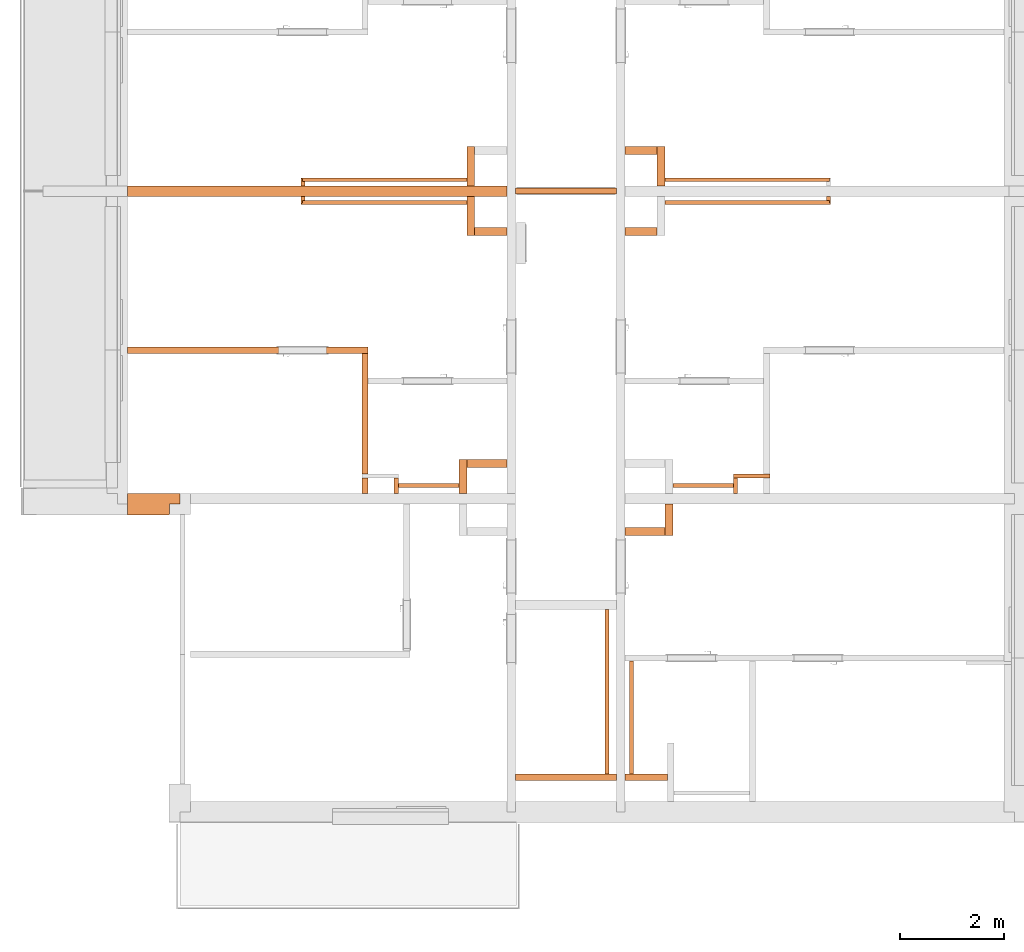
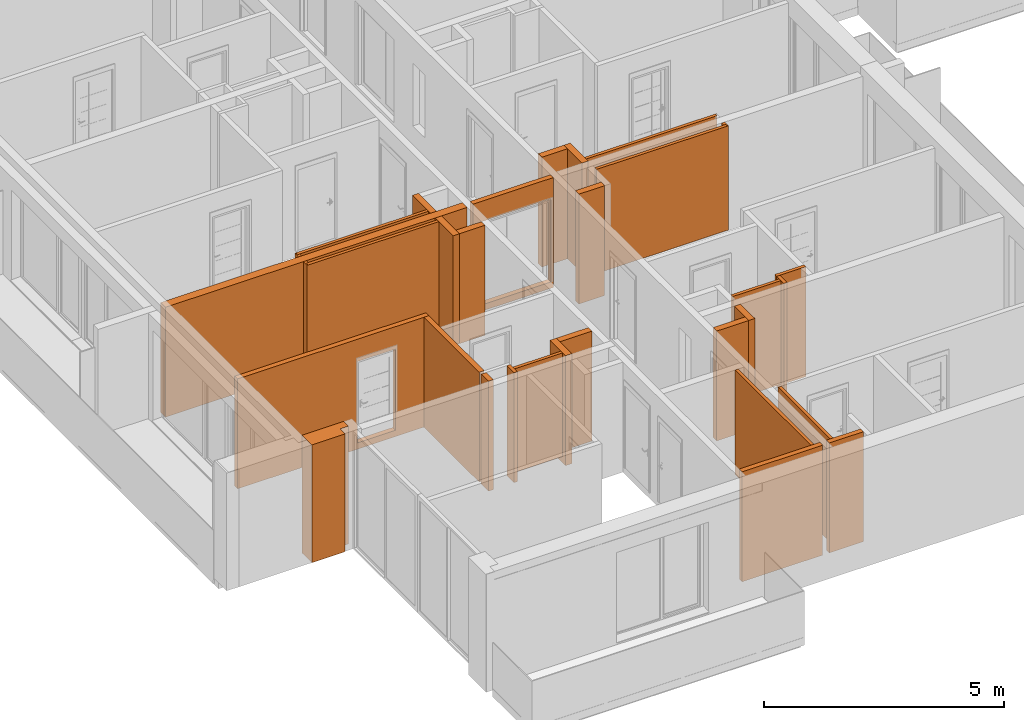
# One storey, part 51 of 64: 31 proxies, 2 openings.
"""IFC2X3 building model written with IfcOpenShell, lengths in millimetres."""

from ifc_helpers import new_model, entity, si_unit, converted_unit, derived_unit, money_unit, direction, frame, origin_with_axes, origin_2d_with_axis, place, context, subcontext, project, spatial, rectangle, extrude, faceted_brep, material, material_list, type_object, element, save


model = new_model("IFC2X3")

# Units and contexts
model_context = context("Model", 3, precision=0.01, world=origin_with_axes(), true_north=direction((0.34421633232, 0.938890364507)))
body_context = subcontext(model_context, "Body", "Model", "MODEL_VIEW")
ifc_project = project(units=[si_unit("LENGTHUNIT", "METRE", prefix="MILLI"), si_unit("AREAUNIT", "SQUARE_METRE"), si_unit("VOLUMEUNIT", "CUBIC_METRE"), converted_unit("PLANEANGLEUNIT", "DEGREE", entity("IfcPlaneAngleMeasure", 0.0174532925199), si_unit("PLANEANGLEUNIT", "RADIAN"), dimensions=[0, 0, 0, 0, 0, 0, 0]), si_unit("SOLIDANGLEUNIT", "STERADIAN"), money_unit("USD"), converted_unit("TIMEUNIT", "Year", entity("IfcTimeMeasure", 31556926.0), si_unit("TIMEUNIT", "SECOND"), dimensions=[0, 0, 1, 0, 0, 0, 0]), si_unit("MASSUNIT", "GRAM", prefix="KILO"), si_unit("THERMODYNAMICTEMPERATUREUNIT", "DEGREE_CELSIUS"), si_unit("LUMINOUSINTENSITYUNIT", "LUMEN"), si_unit("ENERGYUNIT", "JOULE", prefix="MEGA"), derived_unit("THERMALCONDUCTANCEUNIT", [(si_unit("POWERUNIT", "WATT"), 1), (si_unit("LENGTHUNIT", "METRE"), -1), (si_unit("THERMODYNAMICTEMPERATUREUNIT", "KELVIN"), -1)]), derived_unit("SPECIFICHEATCAPACITYUNIT", [(si_unit("ENERGYUNIT", "JOULE"), 1), (si_unit("MASSUNIT", "GRAM", prefix="KILO"), -1), (si_unit("THERMODYNAMICTEMPERATUREUNIT", "KELVIN"), -1)]), derived_unit("MASSDENSITYUNIT", [(si_unit("MASSUNIT", "GRAM", prefix="KILO"), 1), (si_unit("VOLUMEUNIT", "CUBIC_METRE"), -1)])], contexts=[model_context])

# Site, building, storey
site_placement = place(None, origin_with_axes())
site = spatial("IfcSite", under=ifc_project, at=site_placement, Name="USTRONIE MORSKIE", CompositionType="ELEMENT")
building_placement = place(site_placement, origin_with_axes())
building = spatial("IfcBuilding", under=site, at=building_placement, Name="Budynek", CompositionType="ELEMENT")
storey_placement = place(building_placement, frame((0.0, 0.0, 7000.0), z_axis=(0.0, 0.0, 1.0), x_axis=(1.0, 0.0, 0.0)))
storey = spatial("IfcBuildingStorey", under=building, at=storey_placement, Name="PIĘTRO 2", CompositionType="ELEMENT", Elevation=7000.0)

# Proxies
ifc_material_1 = material(Name="Bloczki silikatowe")
building_element_proxy_type_1 = type_object("IfcBuildingElementProxyType", Name="Bloczki silikatowe 120", PredefinedType="NOTDEFINED")
proxy_1_placement = place(storey_placement, frame((359617.920919, 709701.199036, -160.0), z_axis=(0.0, 0.0, 1.0), x_axis=(-1.0, 0.0, 0.0)))
element("IfcBuildingElementProxy", 1, at=proxy_1_placement, inside=storey, type_object=building_element_proxy_type_1, material=ifc_material_1, Name="SW-04", context=body_context, shape_type="Brep", body=[
    faceted_brep([(2020.0, 4.54747350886e-10, 2800.0), (80.0, 3.41060513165e-10, 2800.0), (80.0, -120.0, 2800.0), (2020.0, -120.0, 2800.0), (2020.0, 4.54747350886e-10, 0.0), (80.0, 3.41060513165e-10, 0.0), (80.0, -120.0, 0.0), (2020.0, -120.0, 0.0)], [[[0, 1, 2, 3]], [[4, 5, 1, 0]], [[5, 6, 2, 1]], [[3, 2, 6, 7]], [[7, 4, 0, 3]], [[7, 6, 5, 4]]]),
])
proxy_2_placement = place(storey_placement, frame((359617.920919, 709701.199036, -160.0), z_axis=(0.0, 0.0, 1.0), x_axis=(1.0, 0.0, 0.0)))
element("IfcBuildingElementProxy", 2, at=proxy_2_placement, inside=storey, type_object=building_element_proxy_type_1, material=ifc_material_1, Name="SW-04", context=body_context, shape_type="Brep", body=[
    faceted_brep([(900.0, 120.0, 0.0), (900.0, 0.0, 0.0), (80.0, 0.0, 0.0), (80.0, 120.0, 0.0), (900.0, 120.0, 2800.0), (900.0, 0.0, 2800.0), (80.0, 0.0, 2800.0), (80.0, 120.0, 2800.0)], [[[0, 1, 2, 3]], [[1, 0, 4, 5]], [[1, 5, 6, 2]], [[7, 3, 2, 6]], [[4, 0, 3, 7]], [[5, 4, 7, 6]]]),
])
proxy_3_placement = place(storey_placement, frame((354717.920919, 715101.199036, -160.0), z_axis=(0.0, 0.0, 1.0), x_axis=(0.0, 1.0, 0.0)))
element("IfcBuildingElementProxy", 3, at=proxy_3_placement, inside=storey, type_object=building_element_proxy_type_1, material=ifc_material_1, Name="SW-04", context=body_context, shape_type="Brep", body=[
    faceted_brep([(2790.01935038, 60.0, 0.0), (2790.01935038, -60.0, 0.0), (480.01915523, -60.0, 0.0), (480.01915523, 60.0, 0.0), (2790.01935038, 60.0, 2800.0), (2790.01935038, -60.0, 2800.0), (480.01915523, -60.0, 2800.0), (480.01915523, 60.0, 2800.0)], [[[0, 1, 2, 3]], [[1, 0, 4, 5]], [[1, 5, 6, 2]], [[7, 3, 2, 6]], [[4, 0, 3, 7]], [[5, 4, 7, 6]]]),
    faceted_brep([(400.01915523, 60.0, 0.0), (400.01915523, -60.0, 0.0), (100.0, -60.0, 0.0), (100.0, 60.0, 0.0), (400.01915523, 60.0, 2800.0), (400.01915523, -60.0, 2800.0), (100.0, -60.0, 2800.0), (100.0, 60.0, 2800.0)], [[[0, 1, 2, 3]], [[1, 0, 4, 5]], [[1, 5, 6, 2]], [[7, 3, 2, 6]], [[4, 0, 3, 7]], [[5, 4, 7, 6]]]),
])

# Proxy, opening
proxy_4_placement = place(storey_placement, frame((354717.920919, 717951.218387, -160.0), z_axis=(0.0, 0.0, 1.0), x_axis=(-1.0, 0.0, 0.0)))
proxy_4 = element("IfcBuildingElementProxy", 4, at=proxy_4_placement, inside=storey, type_object=building_element_proxy_type_1, material=ifc_material_1, Name="SW-04", context=body_context, shape_type="Brep", body=[
    faceted_brep([(4550.0, -59.9999999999, 2800.0), (4550.0, 59.9999999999, 2800.0), (-60.0, 59.9999999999, 2800.0), (-60.0, -59.9999999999, 2800.0), (4550.0, -59.9999999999, 0.0), (4550.0, 59.9999999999, 0.0), (-60.0, 59.9999999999, 0.0), (-60.0, -59.9999999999, 0.0)], [[[0, 1, 2, 3]], [[1, 0, 4, 5]], [[1, 5, 6, 2]], [[7, 3, 2, 6]], [[4, 0, 3, 7]], [[5, 4, 7, 6]]]),
])
opening_1_placement = place(proxy_4_placement, frame((1200.0, 0.0, 160.0), z_axis=(0.0, 0.0, 1.0), x_axis=(1.0, 0.0, 0.0)))
element("IfcOpeningElement", 5, at=opening_1_placement, cuts=proxy_4, Name="Dw.3", context=body_context, shape_type="SweptSolid", body=[
    extrude(rectangle(XDim=920.0, YDim=2070.0, at=origin_2d_with_axis()), frame((0.0, 120.0, 1035.0), z_axis=(0.0, 1.0, 0.0), x_axis=(-1.0, 0.0, 0.0)), (0.0, 0.0, -1.0), 360.0),
    extrude(rectangle(XDim=994.0, YDim=2177.0, at=origin_2d_with_axis()), frame((0.0, 60.0000000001, 1088.5), z_axis=(0.0, 1.0, 0.0), x_axis=(-1.0, 0.0, 0.0)), (0.0, 0.0, 1.0), 120.0),
    extrude(rectangle(XDim=994.0, YDim=2177.0, at=origin_2d_with_axis()), frame((0.0, -59.9999999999, 1088.5), z_axis=(0.0, -1.0, 0.0), x_axis=(-1.0, 0.0, 0.0)), (0.0, 0.0, 1.0), 120.0),
])

proxy_5_placement = place(storey_placement, frame((359617.920919, 721001.199036, -160.0), z_axis=(0.0, 0.0, 1.0), x_axis=(-1.0, 0.0, 0.0)))
proxy_5 = element("IfcBuildingElementProxy", 6, at=proxy_5_placement, inside=storey, type_object=building_element_proxy_type_1, material=ifc_material_1, Name="SW-04", context=body_context, shape_type="Brep", body=[
    faceted_brep([(2020.0, 59.9999999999, 2800.0), (80.0, 59.9999999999, 2800.0), (80.0, -59.9999999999, 2800.0), (2020.0, -59.9999999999, 2800.0), (2020.0, 59.9999999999, 0.0), (80.0, 59.9999999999, 0.0), (80.0, -59.9999999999, 0.0), (2020.0, -59.9999999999, 0.0)], [[[0, 1, 2, 3]], [[4, 5, 1, 0]], [[5, 6, 2, 1]], [[3, 2, 6, 7]], [[7, 4, 0, 3]], [[7, 6, 5, 4]]]),
])
opening_2_placement = place(proxy_5_placement, frame((1050.0, 0.0, 160.0), z_axis=(0.0, 0.0, 1.0), x_axis=(1.0, 0.0, 0.0)))
element("IfcOpeningElement", 7, at=opening_2_placement, cuts=proxy_5, Name="Dw.5s", context=body_context, shape_type="SweptSolid", body=[
    extrude(rectangle(XDim=1820.0, YDim=2120.0, at=origin_2d_with_axis()), frame((0.0, 120.0, 1060.0), z_axis=(0.0, 1.0, 0.0), x_axis=(1.0, 0.0, 0.0)), (0.0, 0.0, -1.0), 360.0),
    extrude(rectangle(XDim=1894.0, YDim=2157.0, at=origin_2d_with_axis()), frame((0.0, 60.0000000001, 1078.5), z_axis=(0.0, 1.0, 0.0), x_axis=(1.0, 0.0, 0.0)), (0.0, 0.0, 1.0), 120.0),
    extrude(rectangle(XDim=1894.0, YDim=2157.0, at=origin_2d_with_axis()), frame((0.0, -59.9999999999, 1078.5), z_axis=(0.0, -1.0, 0.0), x_axis=(1.0, 0.0, 0.0)), (0.0, 0.0, 1.0), 120.0),
])

# Proxies
ifc_material_2 = material(Name="Tynk zewnętrzny")
ifc_material_3 = material(Name="Wełna ELEW")
ifc_material_4 = material(Name="Beton konstrukcyjny B25")
ifc_material_list_1 = material_list([ifc_material_2, ifc_material_3, ifc_material_4])
building_element_proxy_type_2 = type_object("IfcBuildingElementProxyType", Name="20+20 410", PredefinedType="NOTDEFINED")
proxy_6_placement = place(storey_placement, frame((351267.920919, 715101.199036, -160.0), z_axis=(0.0, 0.0, 1.0), x_axis=(-1.0, 0.0, 0.0)))
element("IfcBuildingElementProxy", 8, at=proxy_6_placement, inside=storey, type_object=building_element_proxy_type_2, material=ifc_material_list_1, Name="SZ-01", context=body_context, shape_type="Brep", body=[
    faceted_brep([(310.0, 310.0, 2800.0), (310.0, 300.0, 2800.0), (310.0, 300.0, 3000.0), (310.0, 310.0, 3000.0), (310.0, 300.0, 0.0), (310.0, 310.0, 0.0), (1100.0, 300.0, 0.0), (1100.0, 300.0, 3000.0), (1100.0, 310.0, 3000.0), (1100.0, 310.0, 0.0)], [[[0, 1, 2, 3]], [[4, 1, 0, 5]], [[1, 4, 6, 7, 2]], [[3, 2, 7, 8]], [[5, 0, 3, 8, 9]], [[4, 5, 9, 6]], [[8, 7, 6, 9]]]),
    faceted_brep([(300.0, 300.0, 2800.0), (300.0, 100.0, 2800.0), (300.0, 100.0, 3000.0), (300.0, 300.0, 3000.0), (300.0, 100.0, 0.0), (300.0, 300.0, 0.0), (1100.0, 100.0, 0.0), (1100.0, 100.0, 3000.0), (1100.0, 300.0, 3000.0), (1100.0, 300.0, 0.0)], [[[0, 1, 2, 3]], [[4, 1, 0, 5]], [[1, 4, 6, 7, 2]], [[3, 2, 7, 8]], [[5, 0, 3, 8, 9]], [[4, 5, 9, 6]], [[8, 7, 6, 9]]]),
    faceted_brep([(100.0, 100.0, 2800.0), (100.0, -100.0, 2800.0), (100.0, -100.0, 3000.0), (100.0, 100.0, 3000.0), (100.0, -100.0, 0.0), (100.0, 100.0, 0.0), (1100.0, -99.9999999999, 0.0), (1100.0, -99.9999999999, 3000.0), (1100.0, 100.0, 3000.0), (1100.0, 100.0, 0.0)], [[[0, 1, 2, 3]], [[4, 1, 0, 5]], [[1, 4, 6, 7, 2]], [[3, 2, 7, 8]], [[5, 0, 3, 8, 9]], [[4, 5, 9, 6]], [[8, 7, 6, 9]]]),
])
ifc_material_5 = material(Name="-Pustka powietrzna")
ifc_material_6 = material(Name="Płyta GK")
ifc_material_list_2 = material_list([ifc_material_5, ifc_material_6, ifc_material_6])
building_element_proxy_type_3 = type_object("IfcBuildingElementProxyType", Name="330-SD GK 2-warstwy 75", PredefinedType="NOTDEFINED")
proxy_7_placement = place(storey_placement, frame((359372.920919, 713071.199036, -160.0), z_axis=(0.0, 0.0, 1.0), x_axis=(0.0, -1.0, 0.0)))
element("IfcBuildingElementProxy", 9, at=proxy_7_placement, inside=storey, type_object=building_element_proxy_type_3, material=ifc_material_list_2, Name="Ściana-009", context=body_context, shape_type="Brep", body=[
    faceted_brep([(3249.99999956, 25.0, 160.0), (90.0, 25.0, 160.0), (90.0, 25.0, 2800.0), (3249.99999956, 25.0, 2800.0), (90.0, -25.0, 160.0), (3249.99999956, -25.0, 160.0), (90.0, -25.0, 2800.0), (3249.99999956, -25.0, 2800.0)], [[[0, 1, 2, 3]], [[4, 1, 0, 5]], [[1, 4, 6, 2]], [[7, 3, 2, 6]], [[5, 0, 3, 7]], [[4, 5, 7, 6]]]),
    faceted_brep([(3249.99999956, -25.0, 145.0), (90.0, -25.0, 145.0), (90.0, -25.0, 2800.0), (3249.99999956, -25.0, 2800.0), (90.0, -37.5, 145.0), (3249.99999956, -37.5, 145.0), (90.0, -37.5, 2800.0), (3249.99999956, -37.5, 2800.0)], [[[0, 1, 2, 3]], [[4, 1, 0, 5]], [[1, 4, 6, 2]], [[7, 3, 2, 6]], [[5, 0, 3, 7]], [[4, 5, 7, 6]]]),
    faceted_brep([(3249.99999956, -37.5, 145.0), (90.0, -37.5, 145.0), (90.0, -37.5, 2800.0), (3249.99999956, -37.5, 2800.0), (90.0, -50.0, 145.0), (3249.99999956, -50.0, 145.0), (90.0, -50.0, 2800.0), (3249.99999956, -50.0, 2800.0)], [[[0, 1, 2, 3]], [[4, 1, 0, 5]], [[1, 4, 6, 2]], [[7, 3, 2, 6]], [[5, 0, 3, 7]], [[4, 5, 7, 6]]]),
])
ifc_material_list_3 = material_list([ifc_material_6, ifc_material_6, ifc_material_5])
proxy_8_placement = place(storey_placement, frame((360542.92182, 715371.197725, -180.0), z_axis=(0.0, 0.0, 1.0), x_axis=(1.0, 0.0, 0.0)))
element("IfcBuildingElementProxy", 10, at=proxy_8_placement, inside=storey, type_object=building_element_proxy_type_3, material=ifc_material_list_3, Name="Ściana-009", context=body_context, shape_type="Brep", body=[
    faceted_brep([(1234.99909883, 12.5, 165.0), (1234.99909883, 25.0, 165.0), (1234.99909883, 25.0, 2820.0), (1234.99909883, 12.5, 2820.0), (75.0, 25.0, 165.0), (75.0, 12.5, 165.0), (75.0, 25.0, 2820.0), (75.0, 12.5, 2820.0)], [[[0, 1, 2, 3]], [[4, 1, 0, 5]], [[1, 4, 6, 2]], [[7, 3, 2, 6]], [[5, 0, 3, 7]], [[4, 5, 7, 6]]]),
    faceted_brep([(1234.99909883, 0.0, 165.0), (1234.99909883, 12.5, 165.0), (1234.99909883, 12.5, 2820.0), (1234.99909883, 0.0, 2820.0), (75.0, 12.5, 165.0), (75.0, 0.0, 165.0), (75.0, 12.5, 2820.0), (75.0, 0.0, 2820.0)], [[[0, 1, 2, 3]], [[4, 1, 0, 5]], [[1, 4, 6, 2]], [[7, 3, 2, 6]], [[5, 0, 3, 7]], [[4, 5, 7, 6]]]),
    faceted_brep([(1234.99909883, -50.0, 180.0), (1234.99909883, 0.0, 180.0), (1234.99909883, 0.0, 2820.0), (1234.99909883, -50.0, 2820.0), (75.0, 0.0, 180.0), (75.0, -50.0, 180.0), (75.0, 0.0, 2820.0), (75.0, -50.0, 2820.0)], [[[0, 1, 2, 3]], [[4, 1, 0, 5]], [[1, 4, 6, 2]], [[7, 3, 2, 6]], [[5, 0, 3, 7]], [[4, 5, 7, 6]]]),
])
proxy_9_placement = place(storey_placement, frame((360317.920919, 721231.199036, -180.0), z_axis=(0.0, 0.0, 1.0), x_axis=(1.0, 0.0, 0.0)))
element("IfcBuildingElementProxy", 11, at=proxy_9_placement, inside=storey, type_object=building_element_proxy_type_3, material=ifc_material_list_3, Name="Ściana-009", context=body_context, shape_type="Brep", body=[
    faceted_brep([(3325.0, 12.5, 165.0), (3325.0, 25.0, 165.0), (3325.0, 25.0, 2820.0), (3325.0, 12.5, 2820.0), (150.0, 25.0, 165.0), (150.0, 12.5, 165.0), (150.0, 25.0, 2820.0), (150.0, 12.5, 2820.0)], [[[0, 1, 2, 3]], [[4, 1, 0, 5]], [[1, 4, 6, 2]], [[2, 6, 7, 3]], [[5, 0, 3, 7]], [[4, 5, 7, 6]]]),
    faceted_brep([(3312.5, 0.0, 165.0), (3312.5, 12.5, 165.0), (3312.5, 12.5, 2820.0), (3312.5, 0.0, 2820.0), (150.0, 12.5, 165.0), (150.0, 0.0, 165.0), (150.0, 12.5, 2820.0), (150.0, 0.0, 2820.0)], [[[0, 1, 2, 3]], [[4, 1, 0, 5]], [[1, 4, 6, 2]], [[2, 6, 7, 3]], [[5, 0, 3, 7]], [[4, 5, 7, 6]]]),
    faceted_brep([(3300.0, -50.0, 180.0), (3300.0, 0.0, 180.0), (3300.0, 0.0, 2820.0), (3300.0, -50.0, 2820.0), (150.0, 0.0, 180.0), (150.0, -50.0, 180.0), (150.0, 0.0, 2820.0), (150.0, -50.0, 2820.0)], [[[0, 1, 2, 3]], [[4, 1, 0, 5]], [[1, 4, 6, 2]], [[2, 6, 7, 3]], [[5, 0, 3, 7]], [[4, 5, 7, 6]]]),
])
proxy_10_placement = place(storey_placement, frame((356817.920919, 720771.199036, -180.0), z_axis=(0.0, 0.0, 1.0), x_axis=(-1.0, 0.0, 0.0)))
element("IfcBuildingElementProxy", 12, at=proxy_10_placement, inside=storey, type_object=building_element_proxy_type_3, material=ifc_material_list_3, Name="Ściana-009", context=body_context, shape_type="Brep", body=[
    faceted_brep([(150.0, 25.0, 165.0), (150.0, 12.5, 165.0), (150.0, 12.5, 2820.0), (150.0, 25.0, 2820.0), (3325.0, 12.5, 165.0), (3325.0, 25.0, 165.0), (3325.0, 12.5, 2820.0), (3325.0, 25.0, 2820.0)], [[[0, 1, 2, 3]], [[4, 1, 0, 5]], [[1, 4, 6, 2]], [[7, 3, 2, 6]], [[5, 0, 3, 7]], [[4, 5, 7, 6]]]),
    faceted_brep([(150.0, 12.5, 165.0), (150.0, 0.0, 165.0), (150.0, 0.0, 2820.0), (150.0, 12.5, 2820.0), (3312.5, 0.0, 165.0), (3312.5, 12.5, 165.0), (3312.5, 0.0, 2820.0), (3312.5, 12.5, 2820.0)], [[[0, 1, 2, 3]], [[4, 1, 0, 5]], [[1, 4, 6, 2]], [[7, 3, 2, 6]], [[5, 0, 3, 7]], [[4, 5, 7, 6]]]),
    faceted_brep([(150.0, 0.0, 180.0), (150.0, -50.0, 180.0), (150.0, -50.0, 2820.0), (150.0, 0.0, 2820.0), (3300.0, -50.0, 180.0), (3300.0, 0.0, 180.0), (3300.0, -50.0, 2820.0), (3300.0, 0.0, 2820.0)], [[[0, 1, 2, 3]], [[4, 1, 0, 5]], [[1, 4, 6, 2]], [[7, 3, 2, 6]], [[5, 0, 3, 7]], [[4, 5, 7, 6]]]),
])
proxy_11_placement = place(storey_placement, frame((363617.920919, 721001.199036, -180.0), z_axis=(0.0, 0.0, 1.0), x_axis=(0.0, -1.0, 0.0)))
element("IfcBuildingElementProxy", 13, at=proxy_11_placement, inside=storey, type_object=building_element_proxy_type_3, material=ifc_material_list_3, Name="Ściana-009", context=body_context, shape_type="Brep", body=[
    faceted_brep([(242.5, 25.0, 165.0), (100.0, 25.0, 165.0), (100.0, 25.0, 2820.0), (242.5, 25.0, 2820.0), (100.0, 12.5, 165.0), (242.5, 12.5, 165.0), (100.0, 12.5, 2820.0), (242.5, 12.5, 2820.0)], [[[0, 1, 2, 3]], [[4, 1, 0, 5]], [[1, 4, 6, 2]], [[3, 2, 6, 7]], [[5, 0, 3, 7]], [[4, 5, 7, 6]]]),
    faceted_brep([(230.0, 12.5, 165.0), (100.0, 12.5, 165.0), (100.0, 12.5, 2820.0), (230.0, 12.5, 2820.0), (100.0, 0.0, 165.0), (230.0, 0.0, 165.0), (100.0, 0.0, 2820.0), (230.0, 0.0, 2820.0)], [[[0, 1, 2, 3]], [[4, 1, 0, 5]], [[1, 4, 6, 2]], [[3, 2, 6, 7]], [[5, 0, 3, 7]], [[4, 5, 7, 6]]]),
    faceted_brep([(180.0, 0.0, 180.0), (100.0, 0.0, 180.0), (100.0, 0.0, 2820.0), (180.0, 0.0, 2820.0), (100.0, -50.0, 180.0), (180.0, -50.0, 180.0), (100.0, -50.0, 2820.0), (180.0, -50.0, 2820.0)], [[[0, 1, 2, 3]], [[4, 1, 0, 5]], [[1, 4, 6, 2]], [[3, 2, 6, 7]], [[5, 0, 3, 7]], [[4, 5, 7, 6]]]),
])
proxy_12_placement = place(storey_placement, frame((360317.920919, 720771.199036, -180.0), z_axis=(0.0, 0.0, 1.0), x_axis=(1.0, 0.0, 0.0)))
element("IfcBuildingElementProxy", 14, at=proxy_12_placement, inside=storey, type_object=building_element_proxy_type_3, material=ifc_material_list_2, Name="Ściana-009", context=body_context, shape_type="Brep", body=[
    faceted_brep([(3300.0, 0.0, 180.0), (3300.0, 50.0, 180.0), (3300.0, 50.0, 2820.0), (3300.0, 0.0, 2820.0), (150.0, 50.0, 180.0), (150.0, 0.0, 180.0), (150.0, 50.0, 2820.0), (150.0, 0.0, 2820.0)], [[[0, 1, 2, 3]], [[4, 1, 0, 5]], [[1, 4, 6, 2]], [[2, 6, 7, 3]], [[5, 0, 3, 7]], [[4, 5, 7, 6]]]),
    faceted_brep([(3312.5, -12.5, 165.0), (3312.5, 0.0, 165.0), (3312.5, 0.0, 2820.0), (3312.5, -12.5, 2820.0), (150.0, 0.0, 165.0), (150.0, -12.5, 165.0), (150.0, 0.0, 2820.0), (150.0, -12.5, 2820.0)], [[[0, 1, 2, 3]], [[4, 1, 0, 5]], [[1, 4, 6, 2]], [[2, 6, 7, 3]], [[5, 0, 3, 7]], [[4, 5, 7, 6]]]),
    faceted_brep([(3325.0, -25.0, 165.0), (3325.0, -12.5, 165.0), (3325.0, -12.5, 2820.0), (3325.0, -25.0, 2820.0), (150.0, -12.5, 165.0), (150.0, -25.0, 165.0), (150.0, -12.5, 2820.0), (150.0, -25.0, 2820.0)], [[[0, 1, 2, 3]], [[4, 1, 0, 5]], [[1, 4, 6, 2]], [[2, 6, 7, 3]], [[5, 0, 3, 7]], [[4, 5, 7, 6]]]),
])
proxy_13_placement = place(storey_placement, frame((353517.920919, 721001.199036, -180.0), z_axis=(0.0, 0.0, 1.0), x_axis=(0.0, -1.0, 0.0)))
element("IfcBuildingElementProxy", 15, at=proxy_13_placement, inside=storey, type_object=building_element_proxy_type_3, material=ifc_material_list_2, Name="Ściana-009", context=body_context, shape_type="Brep", body=[
    faceted_brep([(180.0, 50.0, 180.0), (100.0, 50.0, 180.0), (100.0, 50.0, 2820.0), (180.0, 50.0, 2820.0), (100.0, 0.0, 180.0), (180.0, 0.0, 180.0), (100.0, 0.0, 2820.0), (180.0, 0.0, 2820.0)], [[[0, 1, 2, 3]], [[4, 1, 0, 5]], [[1, 4, 6, 2]], [[3, 2, 6, 7]], [[5, 0, 3, 7]], [[4, 5, 7, 6]]]),
    faceted_brep([(230.0, 0.0, 165.0), (100.0, 0.0, 165.0), (100.0, 0.0, 2820.0), (230.0, 0.0, 2820.0), (100.0, -12.5, 165.0), (230.0, -12.5, 165.0), (100.0, -12.5, 2820.0), (230.0, -12.5, 2820.0)], [[[0, 1, 2, 3]], [[4, 1, 0, 5]], [[1, 4, 6, 2]], [[3, 2, 6, 7]], [[5, 0, 3, 7]], [[4, 5, 7, 6]]]),
    faceted_brep([(242.5, -12.5, 165.0), (100.0, -12.5, 165.0), (100.0, -12.5, 2820.0), (242.5, -12.5, 2820.0), (100.0, -25.0, 165.0), (242.5, -25.0, 165.0), (100.0, -25.0, 2820.0), (242.5, -25.0, 2820.0)], [[[0, 1, 2, 3]], [[4, 1, 0, 5]], [[1, 4, 6, 2]], [[3, 2, 6, 7]], [[5, 0, 3, 7]], [[4, 5, 7, 6]]]),
])
proxy_14_placement = place(storey_placement, frame((353517.920919, 721001.199036, -180.0), z_axis=(0.0, 0.0, 1.0), x_axis=(0.0, 1.0, 0.0)))
element("IfcBuildingElementProxy", 16, at=proxy_14_placement, inside=storey, type_object=building_element_proxy_type_3, material=ifc_material_list_3, Name="Ściana-009", context=body_context, shape_type="Brep", body=[
    faceted_brep([(100.0, 12.5, 165.0), (242.5, 12.5, 165.0), (242.5, 12.5, 2820.0), (100.0, 12.5, 2820.0), (242.5, 25.0, 165.0), (100.0, 25.0, 165.0), (242.5, 25.0, 2820.0), (100.0, 25.0, 2820.0)], [[[0, 1, 2, 3]], [[4, 1, 0, 5]], [[1, 4, 6, 2]], [[6, 7, 3, 2]], [[5, 0, 3, 7]], [[4, 5, 7, 6]]]),
    faceted_brep([(100.0, 0.0, 165.0), (230.0, 0.0, 165.0), (230.0, 0.0, 2820.0), (100.0, 0.0, 2820.0), (230.0, 12.5, 165.0), (100.0, 12.5, 165.0), (230.0, 12.5, 2820.0), (100.0, 12.5, 2820.0)], [[[0, 1, 2, 3]], [[4, 1, 0, 5]], [[1, 4, 6, 2]], [[6, 7, 3, 2]], [[5, 0, 3, 7]], [[4, 5, 7, 6]]]),
    faceted_brep([(100.0, -50.0, 180.0), (180.0, -50.0, 180.0), (180.0, -50.0, 2820.0), (100.0, -50.0, 2820.0), (180.0, 0.0, 180.0), (100.0, 0.0, 180.0), (180.0, 0.0, 2820.0), (100.0, 0.0, 2820.0)], [[[0, 1, 2, 3]], [[4, 1, 0, 5]], [[1, 4, 6, 2]], [[6, 7, 3, 2]], [[5, 0, 3, 7]], [[4, 5, 7, 6]]]),
])
proxy_15_placement = place(storey_placement, frame((356817.920919, 721231.199036, -180.0), z_axis=(0.0, 0.0, 1.0), x_axis=(-1.0, 0.0, 0.0)))
element("IfcBuildingElementProxy", 17, at=proxy_15_placement, inside=storey, type_object=building_element_proxy_type_3, material=ifc_material_list_2, Name="Ściana-009", context=body_context, shape_type="Brep", body=[
    faceted_brep([(150.0, 50.0, 180.0), (150.0, 0.0, 180.0), (150.0, 0.0, 2820.0), (150.0, 50.0, 2820.0), (3300.0, 0.0, 180.0), (3300.0, 50.0, 180.0), (3300.0, 0.0, 2820.0), (3300.0, 50.0, 2820.0)], [[[0, 1, 2, 3]], [[4, 1, 0, 5]], [[1, 4, 6, 2]], [[7, 3, 2, 6]], [[5, 0, 3, 7]], [[4, 5, 7, 6]]]),
    faceted_brep([(150.0, 0.0, 165.0), (150.0, -12.5, 165.0), (150.0, -12.5, 2820.0), (150.0, 0.0, 2820.0), (3312.5, -12.5, 165.0), (3312.5, 0.0, 165.0), (3312.5, -12.5, 2820.0), (3312.5, 0.0, 2820.0)], [[[0, 1, 2, 3]], [[4, 1, 0, 5]], [[1, 4, 6, 2]], [[7, 3, 2, 6]], [[5, 0, 3, 7]], [[4, 5, 7, 6]]]),
    faceted_brep([(150.0, -12.5, 165.0), (150.0, -25.0, 165.0), (150.0, -25.0, 2820.0), (150.0, -12.5, 2820.0), (3325.0, -25.0, 165.0), (3325.0, -12.5, 165.0), (3325.0, -25.0, 2820.0), (3325.0, -12.5, 2820.0)], [[[0, 1, 2, 3]], [[4, 1, 0, 5]], [[1, 4, 6, 2]], [[7, 3, 2, 6]], [[5, 0, 3, 7]], [[4, 5, 7, 6]]]),
])
proxy_16_placement = place(storey_placement, frame((355317.920919, 715371.200737, -180.0), z_axis=(0.0, 0.0, 1.0), x_axis=(1.0, 0.0, 0.0)))
element("IfcBuildingElementProxy", 18, at=proxy_16_placement, inside=storey, type_object=building_element_proxy_type_3, material=ifc_material_list_3, Name="Ściana-009", context=body_context, shape_type="Brep", body=[
    faceted_brep([(1200.0, 12.5, 165.0), (1200.0, 25.0, 165.0), (1200.0, 25.0, 2820.0), (1200.0, 12.5, 2820.0), (40.0, 25.0, 165.0), (40.0, 12.5, 165.0), (40.0, 25.0, 2820.0), (40.0, 12.5, 2820.0)], [[[0, 1, 2, 3]], [[4, 1, 0, 5]], [[1, 4, 6, 2]], [[2, 6, 7, 3]], [[5, 0, 3, 7]], [[4, 5, 7, 6]]]),
    faceted_brep([(1200.0, 0.0, 165.0), (1200.0, 12.5, 165.0), (1200.0, 12.5, 2820.0), (1200.0, 0.0, 2820.0), (40.0, 12.5, 165.0), (40.0, 0.0, 165.0), (40.0, 12.5, 2820.0), (40.0, 0.0, 2820.0)], [[[0, 1, 2, 3]], [[4, 1, 0, 5]], [[1, 4, 6, 2]], [[2, 6, 7, 3]], [[5, 0, 3, 7]], [[4, 5, 7, 6]]]),
    faceted_brep([(1200.0, -50.0, 180.0), (1200.0, 0.0, 180.0), (1200.0, 0.0, 2820.0), (1200.0, -50.0, 2820.0), (40.0, 0.0, 180.0), (40.0, -50.0, 180.0), (40.0, 0.0, 2820.0), (40.0, -50.0, 2820.0)], [[[0, 1, 2, 3]], [[4, 1, 0, 5]], [[1, 4, 6, 2]], [[2, 6, 7, 3]], [[5, 0, 3, 7]], [[4, 5, 7, 6]]]),
])
proxy_17_placement = place(storey_placement, frame((359812.920919, 712051.218403, -160.0), z_axis=(0.0, 0.0, 1.0), x_axis=(0.0, -1.0, 0.0)))
element("IfcBuildingElementProxy", 19, at=proxy_17_placement, inside=storey, type_object=building_element_proxy_type_3, material=ifc_material_list_3, Name="Ściana-009", context=body_context, shape_type="Brep", body=[
    faceted_brep([(2230.01936646, 50.0, 145.0), (59.9999999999, 50.0, 145.0), (59.9999999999, 50.0, 2800.0), (2230.01936646, 50.0, 2800.0), (59.9999999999, 37.5, 145.0), (2230.01936646, 37.5, 145.0), (59.9999999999, 37.5, 2800.0), (2230.01936646, 37.5, 2800.0)], [[[0, 1, 2, 3]], [[4, 1, 0, 5]], [[1, 4, 6, 2]], [[7, 3, 2, 6]], [[5, 0, 3, 7]], [[4, 5, 7, 6]]]),
    faceted_brep([(2230.01936646, 37.5, 145.0), (59.9999999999, 37.5, 145.0), (59.9999999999, 37.5, 2800.0), (2230.01936646, 37.5, 2800.0), (59.9999999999, 25.0, 145.0), (2230.01936646, 25.0, 145.0), (59.9999999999, 25.0, 2800.0), (2230.01936646, 25.0, 2800.0)], [[[0, 1, 2, 3]], [[4, 1, 0, 5]], [[1, 4, 6, 2]], [[7, 3, 2, 6]], [[5, 0, 3, 7]], [[4, 5, 7, 6]]]),
    faceted_brep([(2230.01936646, 25.0, 160.0), (59.9999999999, 25.0, 160.0), (59.9999999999, 25.0, 2800.0), (2230.01936646, 25.0, 2800.0), (59.9999999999, -25.0, 160.0), (2230.01936646, -25.0, 160.0), (59.9999999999, -25.0, 2800.0), (2230.01936646, -25.0, 2800.0)], [[[0, 1, 2, 3]], [[4, 1, 0, 5]], [[1, 4, 6, 2]], [[7, 3, 2, 6]], [[5, 0, 3, 7]], [[4, 5, 7, 6]]]),
])
building_element_proxy_type_4 = type_object("IfcBuildingElementProxyType", Name="Bloczki silikatowe 80", PredefinedType="NOTDEFINED")
proxy_18_placement = place(storey_placement, frame((355317.920919, 715101.199036, -160.0), z_axis=(0.0, 0.0, 1.0), x_axis=(0.0, 1.0, 0.0)))
element("IfcBuildingElementProxy", 20, at=proxy_18_placement, inside=storey, type_object=building_element_proxy_type_4, material=ifc_material_1, Name="Ściana-010", context=body_context, shape_type="Brep", body=[
    faceted_brep([(400.01915523, 40.0, 0.0), (400.01915523, -40.0, 0.0), (100.0, -40.0, 0.0), (100.0, 40.0, 0.0), (400.01915523, 40.0, 2800.0), (400.01915523, -40.0, 2800.0), (100.0, -40.0, 2800.0), (100.0, 40.0, 2800.0)], [[[0, 1, 2, 3]], [[1, 0, 4, 5]], [[1, 5, 6, 2]], [[7, 3, 2, 6]], [[4, 0, 3, 7]], [[5, 4, 7, 6]]]),
])
proxy_19_placement = place(storey_placement, frame((362417.920919, 715541.218191, -160.0), z_axis=(0.0, 0.0, 1.0), x_axis=(-1.0, 0.0, 0.0)))
element("IfcBuildingElementProxy", 21, at=proxy_19_placement, inside=storey, type_object=building_element_proxy_type_4, material=ifc_material_1, Name="Ściana-009", context=body_context, shape_type="Brep", body=[
    faceted_brep([(640.0, -40.0, 2800.0), (640.0, 40.0, 2800.0), (-60.0, 40.0, 2800.0), (-60.0, -40.0, 2800.0), (640.0, -40.0, 0.0), (640.0, 40.0, 0.0), (-60.0, 40.0, 0.0), (-60.0, -40.0, 0.0)], [[[0, 1, 2, 3]], [[1, 0, 4, 5]], [[1, 5, 6, 2]], [[7, 3, 2, 6]], [[4, 0, 3, 7]], [[5, 4, 7, 6]]]),
])
proxy_20_placement = place(storey_placement, frame((361817.920919, 715101.199027, -160.0), z_axis=(0.0, 0.0, 1.0), x_axis=(0.0, 1.0, 0.0)))
element("IfcBuildingElementProxy", 22, at=proxy_20_placement, inside=storey, type_object=building_element_proxy_type_4, material=ifc_material_1, Name="Ściana-010", context=body_context, shape_type="Brep", body=[
    faceted_brep([(400.019164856, -40.0, 2800.0), (400.019164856, 40.0, 2800.0), (100.000000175, 40.0, 2800.0), (99.9999998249, -40.0, 2800.0), (400.019164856, -40.0, 0.0), (400.019164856, 40.0, 0.0), (100.000000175, 40.0, 0.0), (99.9999998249, -40.0, 0.0)], [[[0, 1, 2, 3]], [[1, 0, 4, 5]], [[1, 5, 6, 2]], [[7, 3, 2, 6]], [[4, 0, 3, 7]], [[5, 4, 7, 6]]]),
])
building_element_proxy_type_5 = type_object("IfcBuildingElementProxyType", Name="Bloczki silikatowe 150", PredefinedType="NOTDEFINED")
proxy_21_placement = place(storey_placement, frame((360542.92182, 714476.197053, -160.0), z_axis=(0.0, 0.0, 1.0), x_axis=(-1.0, 0.0, 0.0)))
element("IfcBuildingElementProxy", 23, at=proxy_21_placement, inside=storey, type_object=building_element_proxy_type_5, material=ifc_material_1, Name="Ściana-009", context=body_context, shape_type="Brep", body=[
    faceted_brep([(845.00090117, 75.0, 0.0), (845.00090117, -75.0, 0.0), (75.0, -75.0, 0.0), (75.0, 75.0, 0.0), (845.00090117, 75.0, 2800.0), (845.00090117, -75.0, 2800.0), (75.0, -75.0, 2800.0), (75.0, 75.0, 2800.0)], [[[0, 1, 2, 3]], [[1, 0, 4, 5]], [[1, 5, 6, 2]], [[7, 3, 2, 6]], [[4, 0, 3, 7]], [[5, 4, 7, 6]]]),
])
proxy_22_placement = place(storey_placement, frame((360317.920919, 720301.199036, -160.0), z_axis=(0.0, 0.0, 1.0), x_axis=(-1.0, 0.0, 0.0)))
element("IfcBuildingElementProxy", 24, at=proxy_22_placement, inside=storey, type_object=building_element_proxy_type_5, material=ifc_material_1, Name="SW-03", context=body_context, shape_type="Brep", body=[
    faceted_brep([(620.0, 150.0, 0.0), (620.0, 0.0, 0.0), (0.0, 0.0, 0.0), (0.0, 150.0, 0.0), (620.0, 150.0, 2800.0), (620.0, 0.0, 2800.0), (0.0, 0.0, 2800.0), (0.0, 150.0, 2800.0)], [[[0, 1, 2, 3]], [[1, 0, 4, 5]], [[1, 5, 6, 2]], [[7, 3, 2, 6]], [[4, 0, 3, 7]], [[5, 4, 7, 6]]]),
])
proxy_23_placement = place(storey_placement, frame((356817.920919, 721001.199074, -160.0), z_axis=(0.0, 0.0, 1.0), x_axis=(0.0, -1.0, 0.0)))
element("IfcBuildingElementProxy", 25, at=proxy_23_placement, inside=storey, type_object=building_element_proxy_type_5, material=ifc_material_1, Name="SW-03", context=body_context, shape_type="Brep", body=[
    faceted_brep([(850.000037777, 0.0, 0.0), (100.000037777, 0.0, 0.0), (100.000037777, 0.0, 2800.0), (850.000037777, 0.0, 2800.0), (850.000037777, -150.0, 0.0), (100.000037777, -150.0, 0.0), (100.000037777, -150.0, 2800.0), (850.000037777, -150.0, 2800.0)], [[[0, 1, 2, 3]], [[4, 5, 1, 0]], [[5, 6, 2, 1]], [[3, 2, 6, 7]], [[4, 0, 3, 7]], [[7, 6, 5, 4]]]),
])
for number, where, z_axis, x_axis, name in (
    (26, (356817.920919, 720301.199036, -160.0), (0.0, 0.0, 1.0), (1.0, 0.0, 0.0), "SW-03"),
    (27, (360317.920919, 721701.199036, -160.0), (0.0, 0.0, 1.0), (-1.0, 0.0, 0.0), "SW-03"),
):
    element("IfcBuildingElementProxy", number, at=place(storey_placement, frame(where, z_axis=z_axis, x_axis=x_axis)), inside=storey, type_object=building_element_proxy_type_5, material=ifc_material_1, Name=name, context=body_context, shape_type="Brep", body=[
        faceted_brep([(620.0, -150.0, 2800.0), (620.0, 0.0, 2800.0), (0.0, 0.0, 2800.0), (0.0, -150.0, 2800.0), (620.0, -150.0, 0.0), (620.0, 0.0, 0.0), (0.0, 0.0, 0.0), (0.0, -150.0, 0.0)], [[[0, 1, 2, 3]], [[1, 0, 4, 5]], [[1, 5, 6, 2]], [[7, 3, 2, 6]], [[4, 0, 3, 7]], [[5, 4, 7, 6]]]),
    ])
proxy_24_placement = place(storey_placement, frame((356592.920919, 715776.193892, -160.0), z_axis=(0.0, 0.0, 1.0), x_axis=(1.0, 0.0, 0.0)))
element("IfcBuildingElementProxy", 28, at=proxy_24_placement, inside=storey, type_object=building_element_proxy_type_5, material=ifc_material_1, Name="Ściana-009", context=body_context, shape_type="Brep", body=[
    faceted_brep([(845.0, 75.0, 0.0), (845.0, -75.0, 0.0), (75.0, -75.0, 0.0), (75.0, 75.0, 0.0), (845.0, 75.0, 2800.0), (845.0, -75.0, 2800.0), (75.0, -75.0, 2800.0), (75.0, 75.0, 2800.0)], [[[0, 1, 2, 3]], [[1, 0, 4, 5]], [[1, 5, 6, 2]], [[7, 3, 2, 6]], [[4, 0, 3, 7]], [[5, 4, 7, 6]]]),
])
proxy_25_placement = place(storey_placement, frame((356817.920919, 721001.198998, -160.0), z_axis=(0.0, 0.0, 1.0), x_axis=(0.0, 1.0, 0.0)))
element("IfcBuildingElementProxy", 29, at=proxy_25_placement, inside=storey, type_object=building_element_proxy_type_5, material=ifc_material_1, Name="SW-03", context=body_context, shape_type="Brep", body=[
    faceted_brep([(850.000037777, 150.0, 0.0), (850.000037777, 0.0, 0.0), (100.000037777, 0.0, 0.0), (100.000037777, 150.0, 0.0), (850.000037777, 150.0, 2800.0), (850.000037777, 0.0, 2800.0), (100.000037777, 0.0, 2800.0), (100.000037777, 150.0, 2800.0)], [[[0, 1, 2, 3]], [[1, 0, 4, 5]], [[1, 5, 6, 2]], [[7, 3, 2, 6]], [[4, 0, 3, 7]], [[5, 4, 7, 6]]]),
])
proxy_26_placement = place(storey_placement, frame((356592.920919, 715101.199036, -160.0), z_axis=(0.0, 0.0, 1.0), x_axis=(0.0, 1.0, 0.0)))
element("IfcBuildingElementProxy", 30, at=proxy_26_placement, inside=storey, type_object=building_element_proxy_type_5, material=ifc_material_1, Name="Ściana-009", context=body_context, shape_type="Brep", body=[
    faceted_brep([(749.994856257, 75.0, 2800.0), (100.0, 75.0006891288, 2800.0), (100.0, -74.9993108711, 2800.0), (749.994856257, -75.0, 2800.0), (749.994856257, 75.0, 0.0), (100.0, 75.0006891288, 0.0), (100.0, -74.9993108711, 0.0), (749.994856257, -75.0, 0.0)], [[[0, 1, 2, 3]], [[4, 5, 1, 0]], [[5, 6, 2, 1]], [[3, 2, 6, 7]], [[0, 3, 7, 4]], [[7, 6, 5, 4]]]),
])
proxy_27_placement = place(storey_placement, frame((360317.920919, 721001.198998, -160.0), z_axis=(0.0, 0.0, 1.0), x_axis=(0.0, 1.0, 0.0)))
element("IfcBuildingElementProxy", 31, at=proxy_27_placement, inside=storey, type_object=building_element_proxy_type_5, material=ifc_material_1, Name="SW-03", context=body_context, shape_type="Brep", body=[
    faceted_brep([(850.000037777, -150.0, 2800.0), (850.000037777, 0.0, 2800.0), (100.000037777, 0.0, 2800.0), (100.000037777, -150.0, 2800.0), (850.000037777, -150.0, 0.0), (850.000037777, 0.0, 0.0), (100.000037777, 0.0, 0.0), (100.000037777, -150.0, 0.0)], [[[0, 1, 2, 3]], [[1, 0, 4, 5]], [[1, 5, 6, 2]], [[7, 3, 2, 6]], [[4, 0, 3, 7]], [[5, 4, 7, 6]]]),
])
proxy_28_placement = place(storey_placement, frame((360542.92182, 715101.199035, -160.0), z_axis=(0.0, 0.0, 1.0), x_axis=(0.0, -1.0, 0.0)))
element("IfcBuildingElementProxy", 32, at=proxy_28_placement, inside=storey, type_object=building_element_proxy_type_5, material=ifc_material_1, Name="Ściana-009", context=body_context, shape_type="Brep", body=[
    faceted_brep([(700.001982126, 75.0, 0.0), (700.001982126, -75.0, 0.0), (100.000002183, -75.0, 0.0), (100.000002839, 75.0, 0.0), (700.001982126, 75.0, 2800.0), (700.001982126, -75.0, 2800.0), (100.000002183, -75.0, 2800.0), (100.000002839, 75.0, 2800.0)], [[[0, 1, 2, 3]], [[1, 0, 4, 5]], [[1, 5, 6, 2]], [[7, 3, 2, 6]], [[4, 0, 3, 7]], [[5, 4, 7, 6]]]),
])
building_element_proxy_type_6 = type_object("IfcBuildingElementProxyType", Name="Beton konstrukcyjny B25 200", PredefinedType="NOTDEFINED")
proxy_29_placement = place(storey_placement, frame((350067.920919, 721001.199036, -160.0), z_axis=(0.0, 0.0, 1.0), x_axis=(1.0, 0.0, 0.0)))
element("IfcBuildingElementProxy", 33, at=proxy_29_placement, inside=storey, type_object=building_element_proxy_type_6, material=ifc_material_4, Name="SW-01", context=body_context, shape_type="Brep", body=[
    faceted_brep([(100.0, -100.0, 2800.0), (7370.0, -100.0, 2800.0), (7370.0, 100.0, 2800.0), (100.0, 100.0, 2800.0), (100.0, -100.0, 0.0), (7370.0, -100.0, 0.0), (7370.0, 100.0, 0.0), (100.0, 100.0, 0.0)], [[[0, 1, 2, 3]], [[4, 5, 1, 0]], [[5, 6, 2, 1]], [[3, 2, 6, 7]], [[4, 0, 3, 7]], [[7, 6, 5, 4]]]),
])

save(model, "model.ifc")
